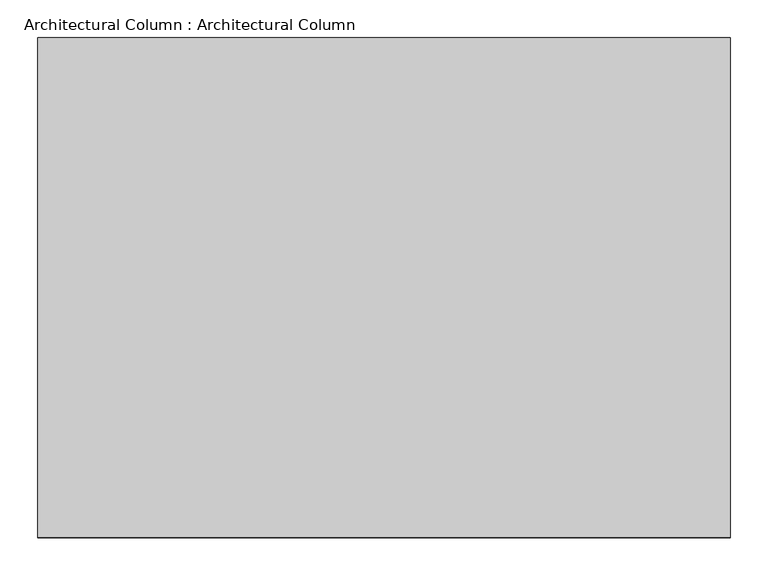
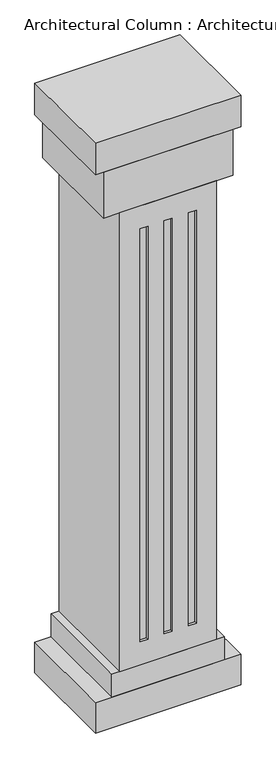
"""IFC4 building model written with IfcOpenShell, lengths in millimetres: proxy geometry, Architectural Column : Architectural Column."""

from ifc_helpers import new_model, si_unit, frame, origin, origin_with_axes, place, context, project, spatial, polyline, outline, extrude, faceted_brep, source, transform, mapped, element, save


def architectural_column_architectural_column_acd7ab04(model_context):
    return source(origin(), model_context, "Body", "SolidModel", [
        faceted_brep([(-304.8, -3048.0, 355.6), (304.8, -3048.0, 355.6), (304.8, -3048.0, 3403.6), (-304.8, -3048.0, 3403.6), (-177.8, -3048.0, 508.0), (-177.8, -3048.0, 3251.2), (-127.0, -3048.0, 3251.2), (-127.0, -3048.0, 508.0), (25.4, -3048.0, 508.0), (-25.4, -3048.0, 508.0), (-25.4, -3048.0, 3251.2), (25.4, -3048.0, 3251.2), (127.0, -3048.0, 508.0), (127.0, -3048.0, 3251.2), (177.8, -3048.0, 3251.2), (177.8, -3048.0, 508.0), (-304.8, -2387.6, 355.6), (-304.8, -2387.6, 3403.6), (304.8, -2387.6, 3403.6), (304.8, -2387.6, 355.6), (-177.8, -3031.7847439, 3251.2), (-177.8, -3031.7847439, 508.0), (-127.0, -3031.7847439, 508.0), (-127.0, -3031.7847439, 3251.2), (-25.4, -3031.7847439, 508.0), (25.4, -3031.7847439, 508.0), (25.4, -3031.7847439, 3251.2), (-25.4, -3031.7847439, 3251.2), (127.0, -3031.7847439, 3251.2), (127.0, -3031.7847439, 508.0), (177.8, -3031.7847439, 508.0), (177.8, -3031.7847439, 3251.2)], [[[0, 1, 2, 3], [4, 5, 6, 7], [8, 9, 10, 11], [12, 13, 14, 15]], [[16, 17, 18, 19]], [[1, 0, 16, 19]], [[2, 1, 19, 18]], [[3, 2, 18, 17]], [[0, 3, 17, 16]], [[20, 21, 22, 23]], [[24, 25, 26, 27]], [[28, 29, 30, 31]], [[21, 20, 5, 4]], [[22, 21, 4, 7]], [[23, 22, 7, 6]], [[20, 23, 6, 5]], [[25, 24, 9, 8]], [[26, 25, 8, 11]], [[27, 26, 11, 10]], [[24, 27, 10, 9]], [[29, 28, 13, 12]], [[30, 29, 12, 15]], [[31, 30, 15, 14]], [[28, 31, 14, 13]]]),
        extrude(outline(polyline([(457.2, -3048.0), (-457.2, -3048.0), (-457.2, -2387.6), (457.2, -2387.6), (457.2, -3048.0)])), origin_with_axes(), (0.0, 0.0, 1.0), 203.2),
        extrude(outline(polyline([(355.6, -3048.0), (-355.6, -3048.0), (-355.6, -2387.6), (355.6, -2387.6), (355.6, -3048.0)])), frame((0.0, 0.0, 203.2), z_axis=(0.0, 0.0, 1.0), x_axis=(1.0, 0.0, 0.0)), (0.0, 0.0, 1.0), 152.4),
        extrude(outline(polyline([(457.2, -3048.0), (-457.2, -3048.0), (-457.2, -2387.6), (457.2, -2387.6), (457.2, -3048.0)])), frame((0.0, 0.0, 3708.4), z_axis=(0.0, 0.0, 1.0), x_axis=(1.0, 0.0, 0.0)), (0.0, 0.0, 1.0), 208.8835792),
        extrude(outline(polyline([(3403.6, -406.4), (3403.6, -304.8), (3403.6, 406.4), (3708.4, 406.4), (3708.4, -406.4), (3403.6, -406.4)])), frame((0.0, -3048.0, 0.0), z_axis=(0.0, 1.0, 0.0), x_axis=(0.0, 0.0, 1.0)), (0.0, 0.0, 1.0), 660.4),
    ])


if __name__ == "__main__":
    model = new_model("IFC4")
    model_context = context("Model", 3, world=origin())
    ifc_project = project(units=[si_unit("LENGTHUNIT", "METRE", prefix="MILLI")], contexts=[model_context])
    site = spatial("IfcSite", under=ifc_project)
    building = spatial("IfcBuilding", under=site)
    placement = place(None, origin())
    architectural_column_architectural_column_shape = architectural_column_architectural_column_acd7ab04(model_context)
    element("IfcBuildingElementProxy", 1, Name="Architectural Column : Architectural Column", ObjectType="Architectural Column : Architectural Column", at=placement, inside=building, context=model_context, shape_type="MappedRepresentation", body=[
        mapped(architectural_column_architectural_column_shape, transform((0.0, 0.0, 0.0), x_axis=(1.0, 0.0, 0.0), y_axis=(0.0, 1.0, 0.0), z_axis=(0.0, 0.0, 1.0))),
    ])
    save(model, "model.ifc")
